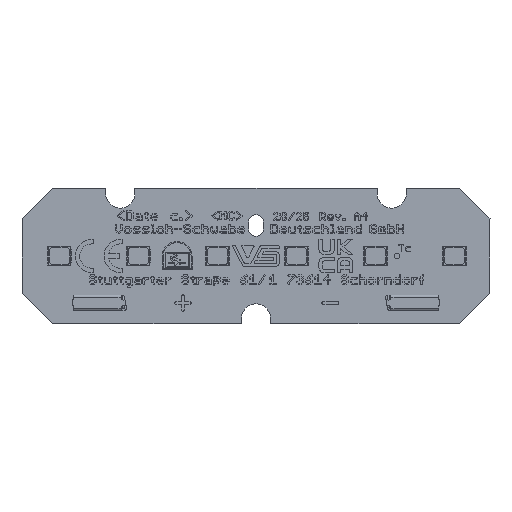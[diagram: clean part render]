
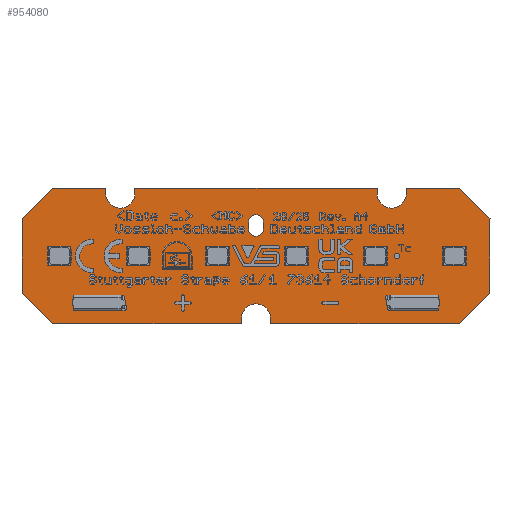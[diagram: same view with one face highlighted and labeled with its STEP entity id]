
A CAD part, top view. The second image highlights one B-rep face of the part: STEP entity #954080.
In plain terms, the highlighted planar face has unit normal (0, 0, 1).
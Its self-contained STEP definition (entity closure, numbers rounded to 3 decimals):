
#952020=CARTESIAN_POINT('',(0.,0.,0.));
#952030=DIRECTION('',(0.,0.,1.));
#952040=DIRECTION('',(1.,0.,0.));
#952050=AXIS2_PLACEMENT_3D('',#952020,#952030,#952040);
#952060=PLANE('',#952050);
#952070=CARTESIAN_POINT('',(0.,4.5,0.));
#952080=DIRECTION('',(0.,1.,0.));
#952090=VECTOR('',#952080,0.039);
#952100=LINE('',#952070,#952090);
#952110=CARTESIAN_POINT('',(0.,4.5,0.));
#952120=VERTEX_POINT('',#952110);
#952130=CARTESIAN_POINT('',(0.,15.5,0.));
#952140=VERTEX_POINT('',#952130);
#952150=EDGE_CURVE('',#952120,#952140,#952100,.T.);
#952160=ORIENTED_EDGE('',*,*,#952150,.F.);
#952170=CARTESIAN_POINT('',(0.,15.5,0.));
#952180=DIRECTION('',(0.707,0.707,0.));
#952190=VECTOR('',#952180,0.039);
#952200=LINE('',#952170,#952190);
#952210=CARTESIAN_POINT('',(4.5,20.,0.));
#952220=VERTEX_POINT('',#952210);
#952230=EDGE_CURVE('',#952140,#952220,#952200,.T.);
#952240=ORIENTED_EDGE('',*,*,#952230,.F.);
#952250=CARTESIAN_POINT('',(4.5,20.,0.));
#952260=DIRECTION('',(1.,0.,0.));
#952270=VECTOR('',#952260,0.039);
#952280=LINE('',#952250,#952270);
#952290=CARTESIAN_POINT('',(12.35,20.,0.));
#952300=VERTEX_POINT('',#952290);
#952310=EDGE_CURVE('',#952220,#952300,#952280,.T.);
#952320=ORIENTED_EDGE('',*,*,#952310,.F.);
#952330=CARTESIAN_POINT('',(12.35,20.,0.));
#952340=DIRECTION('',(0.,-1.,0.));
#952350=VECTOR('',#952340,0.039);
#952360=LINE('',#952330,#952350);
#952370=CARTESIAN_POINT('',(12.35,19.2,0.));
#952380=VERTEX_POINT('',#952370);
#952390=EDGE_CURVE('',#952300,#952380,#952360,.T.);
#952400=ORIENTED_EDGE('',*,*,#952390,.F.);
#952410=CARTESIAN_POINT('',(14.5,19.2,0.));
#952420=DIRECTION('',(0.,0.,1.));
#952430=DIRECTION('',(1.,0.,0.));
#952440=AXIS2_PLACEMENT_3D('',#952410,#952420,#952430);
#952450=CIRCLE('',#952440,2.15);
#952460=CARTESIAN_POINT('',(16.65,19.2,0.));
#952470=VERTEX_POINT('',#952460);
#952480=EDGE_CURVE('',#952380,#952470,#952450,.T.);
#952490=ORIENTED_EDGE('',*,*,#952480,.F.);
#952500=CARTESIAN_POINT('',(16.65,19.2,0.));
#952510=DIRECTION('',(0.,1.,0.));
#952520=VECTOR('',#952510,0.039);
#952530=LINE('',#952500,#952520);
#952540=CARTESIAN_POINT('',(16.65,20.,0.));
#952550=VERTEX_POINT('',#952540);
#952560=EDGE_CURVE('',#952470,#952550,#952530,.T.);
#952570=ORIENTED_EDGE('',*,*,#952560,.F.);
#952580=CARTESIAN_POINT('',(16.65,20.,0.));
#952590=DIRECTION('',(1.,0.,0.));
#952600=VECTOR('',#952590,0.039);
#952610=LINE('',#952580,#952600);
#952620=CARTESIAN_POINT('',(52.35,20.,0.));
#952630=VERTEX_POINT('',#952620);
#952640=EDGE_CURVE('',#952550,#952630,#952610,.T.);
#952650=ORIENTED_EDGE('',*,*,#952640,.F.);
#952660=CARTESIAN_POINT('',(52.35,20.,0.));
#952670=DIRECTION('',(0.,-1.,0.));
#952680=VECTOR('',#952670,0.039);
#952690=LINE('',#952660,#952680);
#952700=CARTESIAN_POINT('',(52.35,19.2,0.));
#952710=VERTEX_POINT('',#952700);
#952720=EDGE_CURVE('',#952630,#952710,#952690,.T.);
#952730=ORIENTED_EDGE('',*,*,#952720,.F.);
#952740=CARTESIAN_POINT('',(54.5,19.2,0.));
#952750=DIRECTION('',(0.,0.,1.));
#952760=DIRECTION('',(1.,0.,0.));
#952770=AXIS2_PLACEMENT_3D('',#952740,#952750,#952760);
#952780=CIRCLE('',#952770,2.15);
#952790=CARTESIAN_POINT('',(56.65,19.2,0.));
#952800=VERTEX_POINT('',#952790);
#952810=EDGE_CURVE('',#952710,#952800,#952780,.T.);
#952820=ORIENTED_EDGE('',*,*,#952810,.F.);
#952830=CARTESIAN_POINT('',(56.65,19.2,0.));
#952840=DIRECTION('',(0.,1.,0.));
#952850=VECTOR('',#952840,0.039);
#952860=LINE('',#952830,#952850);
#952870=CARTESIAN_POINT('',(56.65,20.,0.));
#952880=VERTEX_POINT('',#952870);
#952890=EDGE_CURVE('',#952800,#952880,#952860,.T.);
#952900=ORIENTED_EDGE('',*,*,#952890,.F.);
#952910=CARTESIAN_POINT('',(56.65,20.,0.));
#952920=DIRECTION('',(1.,0.,0.));
#952930=VECTOR('',#952920,0.039);
#952940=LINE('',#952910,#952930);
#952950=CARTESIAN_POINT('',(64.5,20.,0.));
#952960=VERTEX_POINT('',#952950);
#952970=EDGE_CURVE('',#952880,#952960,#952940,.T.);
#952980=ORIENTED_EDGE('',*,*,#952970,.F.);
#952990=CARTESIAN_POINT('',(64.5,20.,0.));
#953000=DIRECTION('',(0.707,-0.707,0.));
#953010=VECTOR('',#953000,0.039);
#953020=LINE('',#952990,#953010);
#953030=CARTESIAN_POINT('',(69.,15.5,0.));
#953040=VERTEX_POINT('',#953030);
#953050=EDGE_CURVE('',#952960,#953040,#953020,.T.);
#953060=ORIENTED_EDGE('',*,*,#953050,.F.);
#953070=CARTESIAN_POINT('',(69.,15.5,0.));
#953080=DIRECTION('',(0.,-1.,0.));
#953090=VECTOR('',#953080,0.039);
#953100=LINE('',#953070,#953090);
#953110=CARTESIAN_POINT('',(69.,4.5,0.));
#953120=VERTEX_POINT('',#953110);
#953130=EDGE_CURVE('',#953040,#953120,#953100,.T.);
#953140=ORIENTED_EDGE('',*,*,#953130,.F.);
#953150=CARTESIAN_POINT('',(69.,4.5,0.));
#953160=DIRECTION('',(-0.707,-0.707,0.));
#953170=VECTOR('',#953160,0.039);
#953180=LINE('',#953150,#953170);
#953190=CARTESIAN_POINT('',(64.5,0.,0.));
#953200=VERTEX_POINT('',#953190);
#953210=EDGE_CURVE('',#953120,#953200,#953180,.T.);
#953220=ORIENTED_EDGE('',*,*,#953210,.F.);
#953230=CARTESIAN_POINT('',(64.5,0.,0.));
#953240=DIRECTION('',(-1.,0.,0.));
#953250=VECTOR('',#953240,0.039);
#953260=LINE('',#953230,#953250);
#953270=CARTESIAN_POINT('',(36.65,0.,0.));
#953280=VERTEX_POINT('',#953270);
#953290=EDGE_CURVE('',#953200,#953280,#953260,.T.);
#953300=ORIENTED_EDGE('',*,*,#953290,.F.);
#953310=CARTESIAN_POINT('',(36.65,0.,0.));
#953320=DIRECTION('',(0.,1.,0.));
#953330=VECTOR('',#953320,0.039);
#953340=LINE('',#953310,#953330);
#953350=CARTESIAN_POINT('',(36.65,0.8,0.));
#953360=VERTEX_POINT('',#953350);
#953370=EDGE_CURVE('',#953280,#953360,#953340,.T.);
#953380=ORIENTED_EDGE('',*,*,#953370,.F.);
#953390=CARTESIAN_POINT('',(34.5,0.8,0.));
#953400=DIRECTION('',(0.,0.,1.));
#953410=DIRECTION('',(1.,0.,0.));
#953420=AXIS2_PLACEMENT_3D('',#953390,#953400,#953410);
#953430=CIRCLE('',#953420,2.15);
#953440=CARTESIAN_POINT('',(32.35,0.8,0.));
#953450=VERTEX_POINT('',#953440);
#953460=EDGE_CURVE('',#953360,#953450,#953430,.T.);
#953470=ORIENTED_EDGE('',*,*,#953460,.F.);
#953480=CARTESIAN_POINT('',(32.35,0.8,0.));
#953490=DIRECTION('',(0.,-1.,0.));
#953500=VECTOR('',#953490,0.039);
#953510=LINE('',#953480,#953500);
#953520=CARTESIAN_POINT('',(32.35,0.,0.));
#953530=VERTEX_POINT('',#953520);
#953540=EDGE_CURVE('',#953450,#953530,#953510,.T.);
#953550=ORIENTED_EDGE('',*,*,#953540,.F.);
#953560=CARTESIAN_POINT('',(32.35,0.,0.));
#953570=DIRECTION('',(-1.,0.,0.));
#953580=VECTOR('',#953570,0.039);
#953590=LINE('',#953560,#953580);
#953600=CARTESIAN_POINT('',(4.5,0.,0.));
#953610=VERTEX_POINT('',#953600);
#953620=EDGE_CURVE('',#953530,#953610,#953590,.T.);
#953630=ORIENTED_EDGE('',*,*,#953620,.F.);
#953640=CARTESIAN_POINT('',(4.5,0.,0.));
#953650=DIRECTION('',(-0.707,0.707,0.));
#953660=VECTOR('',#953650,0.039);
#953670=LINE('',#953640,#953660);
#953680=EDGE_CURVE('',#953610,#952120,#953670,.T.);
#953690=ORIENTED_EDGE('',*,*,#953680,.F.);
#953700=EDGE_LOOP('',(#953690,#953630,#953550,#953470,#953380,#953300,
#953220,#953140,#953060,#952980,#952900,#952820,#952730,#952650,#952570,
#952490,#952400,#952320,#952240,#952160));
#953710=FACE_OUTER_BOUND('',#953700,.T.);
#953720=CARTESIAN_POINT('',(34.5,14.,0.));
#953730=DIRECTION('',(0.,0.,1.));
#953740=DIRECTION('',(1.,0.,0.));
#953750=AXIS2_PLACEMENT_3D('',#953720,#953730,#953740);
#953760=CIRCLE('',#953750,1.1);
#953770=CARTESIAN_POINT('',(33.4,14.,0.));
#953780=VERTEX_POINT('',#953770);
#953790=CARTESIAN_POINT('',(35.6,14.,0.));
#953800=VERTEX_POINT('',#953790);
#953810=EDGE_CURVE('',#953780,#953800,#953760,.T.);
#953820=ORIENTED_EDGE('',*,*,#953810,.F.);
#953830=CARTESIAN_POINT('',(35.6,14.,0.));
#953840=DIRECTION('',(0.,1.,0.));
#953850=VECTOR('',#953840,0.039);
#953860=LINE('',#953830,#953850);
#953870=CARTESIAN_POINT('',(35.6,15.,0.));
#953880=VERTEX_POINT('',#953870);
#953890=EDGE_CURVE('',#953800,#953880,#953860,.T.);
#953900=ORIENTED_EDGE('',*,*,#953890,.F.);
#953910=CARTESIAN_POINT('',(34.5,15.,0.));
#953920=DIRECTION('',(0.,0.,1.));
#953930=DIRECTION('',(1.,0.,0.));
#953940=AXIS2_PLACEMENT_3D('',#953910,#953920,#953930);
#953950=CIRCLE('',#953940,1.1);
#953960=CARTESIAN_POINT('',(33.4,15.,0.));
#953970=VERTEX_POINT('',#953960);
#953980=EDGE_CURVE('',#953880,#953970,#953950,.T.);
#953990=ORIENTED_EDGE('',*,*,#953980,.F.);
#954000=CARTESIAN_POINT('',(33.4,15.,0.));
#954010=DIRECTION('',(0.,-1.,0.));
#954020=VECTOR('',#954010,0.039);
#954030=LINE('',#954000,#954020);
#954040=EDGE_CURVE('',#953970,#953780,#954030,.T.);
#954050=ORIENTED_EDGE('',*,*,#954040,.F.);
#954060=EDGE_LOOP('',(#954050,#953990,#953900,#953820));
#954070=FACE_BOUND('',#954060,.T.);
#954080=ADVANCED_FACE('',(#953710,#954070),#952060,.T.);
